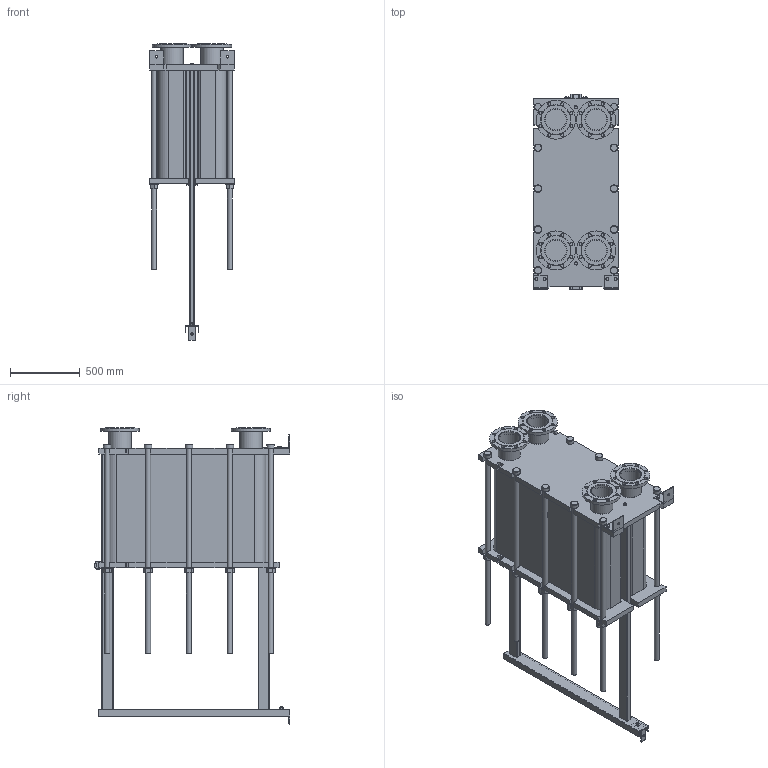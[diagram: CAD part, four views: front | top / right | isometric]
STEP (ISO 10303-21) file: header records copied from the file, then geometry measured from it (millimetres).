
FILE_DESCRIPTION(/* description */ (''),/* implementation_level */ '2;1');
FILE_NAME(/* name */ 'C:\Users\zhuro\Desktop\ENCO\TO\ЭН-041\ЭН-0,5-041-226-1.stp',/* time_stamp */ '2022-06-06T11:07:41+03:00',/* author */ ('zhuro'),/* organization */ (''),/* preprocessor_version */ 'ST-DEVELOPER v18.1',/* originating_system */ 'Autodesk Inventor 2022',/* authorisation */ '');
FILE_SCHEMA (('AUTOMOTIVE_DESIGN { 1 0 10303 214 3 1 1 }'));
Length unit declared in the file: millimetre
Products named in the file (1): ЭН-0,5-041-226-1
Bounding box: 610 x 1406.5 x 2135 mm (x, y, z)
Volume: 527859840.6 mm3; surface area: 11802707.8 mm2
Topology: 52 solids, 52 shells, 711 faces, 1696 edges, 1094 vertices
Faces by surface type: plane 487, cylinder 177, cone 41, torus 6
Full cylindrical faces by diameter (mm): 8 x4, 10 x2, 16 x8, 18 x3, 22 x32, 36 x24, 50 x1, 54 x10, 60 x12, 151 x4, 161 x8, 280 x4
Entity records: 22667 total; most frequent: CARTESIAN_POINT 5230, DIRECTION 3644, ORIENTED_EDGE 3392, EDGE_CURVE 1696, AXIS2_PLACEMENT_3D 1272, LINE 1100, VECTOR 1100, VERTEX_POINT 1094
